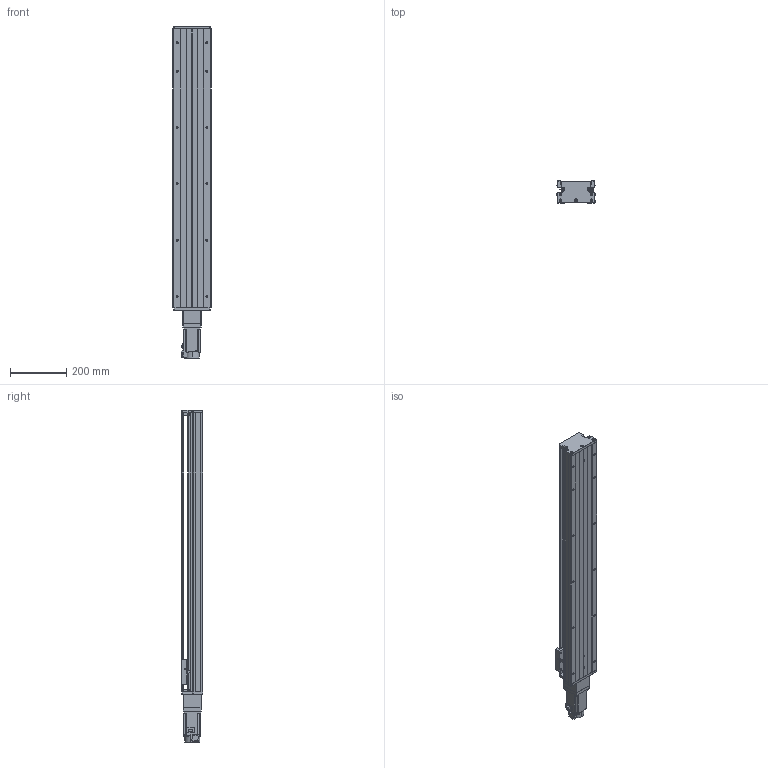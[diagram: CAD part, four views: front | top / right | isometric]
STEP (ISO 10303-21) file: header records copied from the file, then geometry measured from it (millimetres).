
FILE_DESCRIPTION (( 'STEP AP203' ), '1' );
FILE_NAME ('KTH130-850-BC-M40-C4.step', '2023-06-30T03:55:43', ( '微软用户' ), ( '微软中国' ), 'SwSTEP 2.0', 'SolidWorks 2020', '' );
FILE_SCHEMA (( 'CONFIG_CONTROL_DESIGN' ));
Length unit declared in the file: millimetre
Products named in the file (19): GB1155-6X6; GBT77-2000 M3×3; GBT70.1 M5℅16; す晦芛蹟隊 M3℅5; GBT 70.2-M3¡Á5_M3¡Á6; GBT 70.3-M3℅8; GTH14-001_850; CTHA60-017; CTHA86-006-1_M40; KTH130-002_KTH130-002; EE_SX911P_R; CTHA86-013; KTH130-004; CTHA60-016; CTHA86-027-1; KTH130-005; GBT 70.1-M3℅5; KTH130-850-BC-M40-C4; HG-KN43J-S100
Assembly tree (52 placements, depth 2):
  KTH130-850-BC-M40-C4
    GTH14-001_850
    KTH130-002_KTH130-002
    KTH130-004
    KTH130-005
    GB1155-6X6  x2
    GBT70.1 M5℅16  x10
    GBT 70.2-M3¡Á5_M3¡Á6  x4
    CTHA60-017  x3
    EE_SX911P_R  x3
    CTHA60-016  x2
    GBT 70.1-M3℅5  x6
    GBT77-2000 M3×3  x6
    す晦芛蹟隊 M3℅5  x2
    GBT 70.3-M3℅8  x6
    CTHA86-006-1_M40
    CTHA86-013
    CTHA86-027-1
    HG-KN43J-S100
Bounding box: 135 x 78 x 1178.7 mm (x, y, z)
Volume: 6001038.8 mm3; surface area: 910276.9 mm2
Topology: 55 solids, 55 shells, 2192 faces, 5302 edges, 3310 vertices
Faces by surface type: plane 1196, cylinder 608, cone 280, torus 96, sphere 12
Entity records: 40190 total; most frequent: CARTESIAN_POINT 8526, DIRECTION 5985, ORIENTED_EDGE 5888, EDGE_CURVE 2944, AXIS2_PLACEMENT_3D 2043, LINE 1899, VECTOR 1899, VERTEX_POINT 1882
